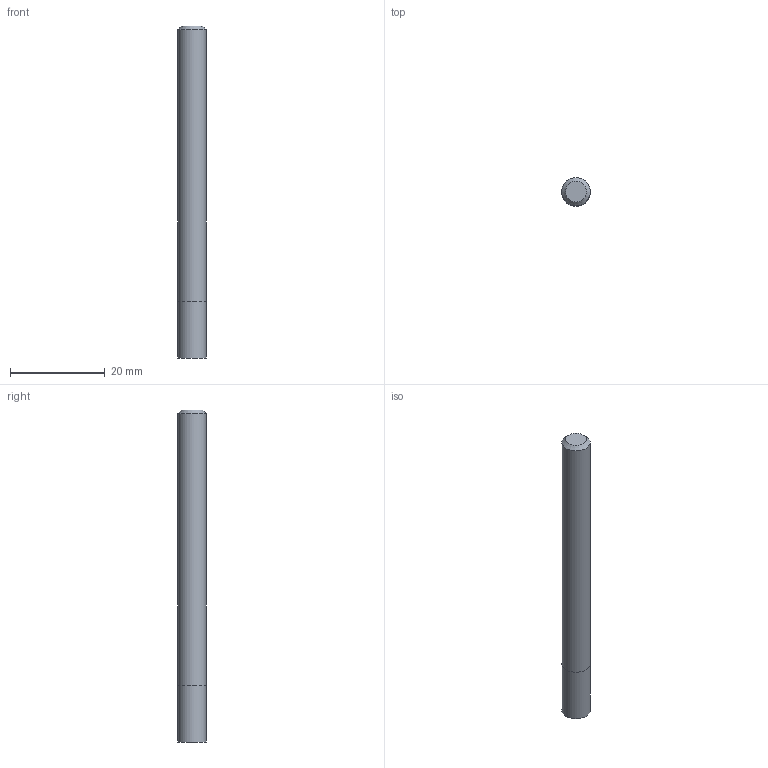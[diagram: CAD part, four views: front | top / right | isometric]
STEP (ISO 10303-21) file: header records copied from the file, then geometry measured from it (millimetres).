
FILE_DESCRIPTION((''),'2;1');
FILE_NAME('C:\Users\nsx150\Desktop\RSE230_20210427\01-00644-06002 RSE230 D6X12.step','2021-05-07T14:54:26',(''),(''),'STEP Write','Mastercam 2021 ... CNC Software, Inc.','');
FILE_SCHEMA(('AUTOMOTIVE_DESIGN'));
Length unit declared in the file: millimetre
Products named in the file (1): None
Bounding box: 6 x 6 x 70 mm (x, y, z)
Volume: 1973.7 mm3; surface area: 1422.9 mm2
Topology: 2 solids, 2 shells, 7 faces, 8 edges, 5 vertices
Faces by surface type: plane 4, cylinder 2, cone 1
Full cylindrical faces by diameter (mm): 6 x2
Entity records: 169 total; most frequent: DIRECTION 28, CARTESIAN_POINT 19, AXIS2_PLACEMENT_3D 14, ORIENTED_EDGE 10, EDGE_LOOP 10, STYLED_ITEM 10, ADVANCED_FACE 7, VERTEX_POINT 5
